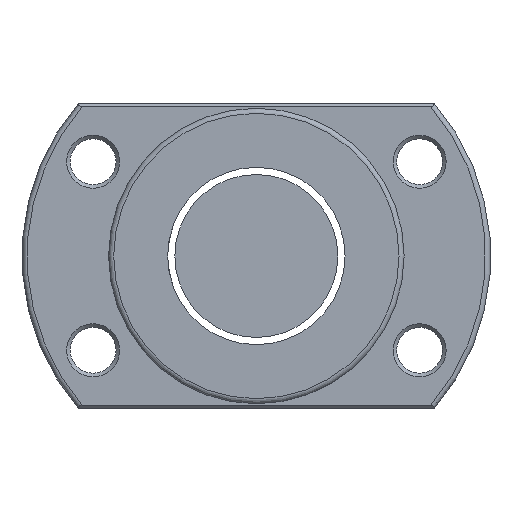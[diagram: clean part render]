
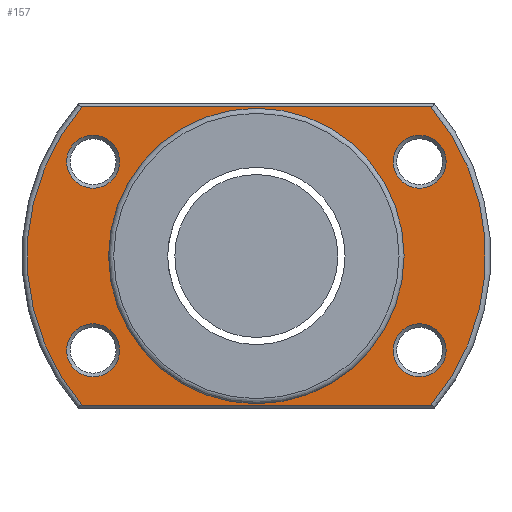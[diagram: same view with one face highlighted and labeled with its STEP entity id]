
A CAD part, left-side view. The second image highlights one B-rep face of the part: STEP entity #157.
In plain terms, the highlighted planar face has unit normal (-1, 0, 0).
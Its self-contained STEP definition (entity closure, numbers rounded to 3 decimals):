
#20 = DIRECTION ( 'NONE',  ( 1., 0., 0. ) ) ;
#31 = DIRECTION ( 'NONE',  ( -1., 0., 0. ) ) ;
#96 = AXIS2_PLACEMENT_3D ( 'NONE', #934, #2356, #708 ) ;
#122 = VERTEX_POINT ( 'NONE', #1669 ) ;
#138 = DIRECTION ( 'NONE',  ( 0., 0., 1. ) ) ;
#148 = DIRECTION ( 'NONE',  ( 1., 0., 0. ) ) ;
#155 = VERTEX_POINT ( 'NONE', #1072 ) ;
#157 = ADVANCED_FACE ( 'NONE', ( #2812, #1888, #711, #1221, #1857, #1651 ), #2796, .T. ) ;
#164 = DIRECTION ( 'NONE',  ( 1., 0., 0. ) ) ;
#268 = DIRECTION ( 'NONE',  ( 0., 0., -1. ) ) ;
#363 = EDGE_LOOP ( 'NONE', ( #2157 ) ) ;
#365 = VERTEX_POINT ( 'NONE', #398 ) ;
#382 = VERTEX_POINT ( 'NONE', #1992 ) ;
#388 = VECTOR ( 'NONE', #2177, 1000. ) ;
#392 = CARTESIAN_POINT ( 'NONE',  ( -61., 0., 0. ) ) ;
#398 = CARTESIAN_POINT ( 'NONE',  ( -61., 32.043, 23.7 ) ) ;
#476 = DIRECTION ( 'NONE',  ( -1., 0., 0. ) ) ;
#551 = CIRCLE ( 'NONE', #691, 5.2 ) ;
#559 = CARTESIAN_POINT ( 'NONE',  ( -61., 46., -29.3 ) ) ;
#597 = EDGE_CURVE ( 'NONE', #2220, #122, #2449, .T. ) ;
#600 = ORIENTED_EDGE ( 'NONE', *, *, #1775, .T. ) ;
#613 = ORIENTED_EDGE ( 'NONE', *, *, #2944, .T. ) ;
#657 = EDGE_CURVE ( 'NONE', #122, #1792, #2428, .T. ) ;
#661 = VECTOR ( 'NONE', #2867, 1000. ) ;
#691 = AXIS2_PLACEMENT_3D ( 'NONE', #1300, #1049, #1472 ) ;
#694 = CARTESIAN_POINT ( 'NONE',  ( -61., 46., 0. ) ) ;
#706 = EDGE_CURVE ( 'NONE', #1894, #1894, #1897, .T. ) ;
#708 = DIRECTION ( 'NONE',  ( 0., 0., 1. ) ) ;
#711 = FACE_BOUND ( 'NONE', #2275, .T. ) ;
#743 = CARTESIAN_POINT ( 'NONE',  ( -61., 34.154, -29.3 ) ) ;
#747 = CARTESIAN_POINT ( 'NONE',  ( -61., -32.043, 23.7 ) ) ;
#849 = EDGE_CURVE ( 'NONE', #1487, #2220, #1055, .T. ) ;
#877 = AXIS2_PLACEMENT_3D ( 'NONE', #2229, #148, #1813 ) ;
#934 = CARTESIAN_POINT ( 'NONE',  ( -61., -32.043, 18.5 ) ) ;
#1013 = ORIENTED_EDGE ( 'NONE', *, *, #657, .T. ) ;
#1022 = LINE ( 'NONE', #1944, #661 ) ;
#1023 = AXIS2_PLACEMENT_3D ( 'NONE', #1606, #20, #1405 ) ;
#1041 = VERTEX_POINT ( 'NONE', #2419 ) ;
#1049 = DIRECTION ( 'NONE',  ( 1., 0., 0. ) ) ;
#1055 = CIRCLE ( 'NONE', #1586, 45. ) ;
#1072 = CARTESIAN_POINT ( 'NONE',  ( -61., 0., -29. ) ) ;
#1191 = DIRECTION ( 'NONE',  ( 0., 0., 1. ) ) ;
#1221 = FACE_BOUND ( 'NONE', #363, .T. ) ;
#1235 = EDGE_LOOP ( 'NONE', ( #600 ) ) ;
#1292 = EDGE_LOOP ( 'NONE', ( #2871 ) ) ;
#1300 = CARTESIAN_POINT ( 'NONE',  ( -61., 32.043, -18.5 ) ) ;
#1338 = EDGE_LOOP ( 'NONE', ( #613 ) ) ;
#1395 = CARTESIAN_POINT ( 'NONE',  ( -61., 34.154, 29.3 ) ) ;
#1405 = DIRECTION ( 'NONE',  ( 0., 0., 1. ) ) ;
#1408 = AXIS2_PLACEMENT_3D ( 'NONE', #2164, #1477, #138 ) ;
#1472 = DIRECTION ( 'NONE',  ( 0., 0., 1. ) ) ;
#1476 = ORIENTED_EDGE ( 'NONE', *, *, #597, .T. ) ;
#1477 = DIRECTION ( 'NONE',  ( -1., 0., 0. ) ) ;
#1487 = VERTEX_POINT ( 'NONE', #1395 ) ;
#1566 = ORIENTED_EDGE ( 'NONE', *, *, #706, .T. ) ;
#1575 = EDGE_CURVE ( 'NONE', #1792, #1487, #1022, .T. ) ;
#1586 = AXIS2_PLACEMENT_3D ( 'NONE', #2779, #476, #1920 ) ;
#1606 = CARTESIAN_POINT ( 'NONE',  ( -61., -32.043, -18.5 ) ) ;
#1651 = FACE_OUTER_BOUND ( 'NONE', #2915, .T. ) ;
#1669 = CARTESIAN_POINT ( 'NONE',  ( -61., -34.154, -29.3 ) ) ;
#1775 = EDGE_CURVE ( 'NONE', #382, #382, #551, .T. ) ;
#1792 = VERTEX_POINT ( 'NONE', #2399 ) ;
#1813 = DIRECTION ( 'NONE',  ( 0., 0., 1. ) ) ;
#1857 = FACE_BOUND ( 'NONE', #1292, .T. ) ;
#1888 = FACE_BOUND ( 'NONE', #1338, .T. ) ;
#1894 = VERTEX_POINT ( 'NONE', #747 ) ;
#1897 = CIRCLE ( 'NONE', #96, 5.2 ) ;
#1920 = DIRECTION ( 'NONE',  ( 0., 0., 1. ) ) ;
#1944 = CARTESIAN_POINT ( 'NONE',  ( -61., 46., 29.3 ) ) ;
#1946 = AXIS2_PLACEMENT_3D ( 'NONE', #694, #31, #1191 ) ;
#1951 = CIRCLE ( 'NONE', #2043, 29. ) ;
#1992 = CARTESIAN_POINT ( 'NONE',  ( -61., 32.043, -13.3 ) ) ;
#2043 = AXIS2_PLACEMENT_3D ( 'NONE', #392, #164, #268 ) ;
#2157 = ORIENTED_EDGE ( 'NONE', *, *, #2875, .T. ) ;
#2164 = CARTESIAN_POINT ( 'NONE',  ( -61., 0., 0. ) ) ;
#2177 = DIRECTION ( 'NONE',  ( 0., -1., 0. ) ) ;
#2220 = VERTEX_POINT ( 'NONE', #743 ) ;
#2229 = CARTESIAN_POINT ( 'NONE',  ( -61., 32.043, 18.5 ) ) ;
#2274 = CIRCLE ( 'NONE', #1023, 5.2 ) ;
#2275 = EDGE_LOOP ( 'NONE', ( #1566 ) ) ;
#2356 = DIRECTION ( 'NONE',  ( 1., 0., 0. ) ) ;
#2399 = CARTESIAN_POINT ( 'NONE',  ( -61., -34.154, 29.3 ) ) ;
#2419 = CARTESIAN_POINT ( 'NONE',  ( -61., -32.043, -13.3 ) ) ;
#2428 = CIRCLE ( 'NONE', #1408, 45. ) ;
#2433 = ORIENTED_EDGE ( 'NONE', *, *, #1575, .T. ) ;
#2449 = LINE ( 'NONE', #559, #388 ) ;
#2586 = EDGE_CURVE ( 'NONE', #155, #155, #1951, .T. ) ;
#2759 = CIRCLE ( 'NONE', #877, 5.2 ) ;
#2779 = CARTESIAN_POINT ( 'NONE',  ( -61., 0., 0. ) ) ;
#2796 = PLANE ( 'NONE',  #1946 ) ;
#2812 = FACE_BOUND ( 'NONE', #1235, .T. ) ;
#2835 = ORIENTED_EDGE ( 'NONE', *, *, #849, .T. ) ;
#2867 = DIRECTION ( 'NONE',  ( 0., 1., 0. ) ) ;
#2871 = ORIENTED_EDGE ( 'NONE', *, *, #2586, .T. ) ;
#2875 = EDGE_CURVE ( 'NONE', #365, #365, #2759, .T. ) ;
#2915 = EDGE_LOOP ( 'NONE', ( #2433, #2835, #1476, #1013 ) ) ;
#2944 = EDGE_CURVE ( 'NONE', #1041, #1041, #2274, .T. ) ;
